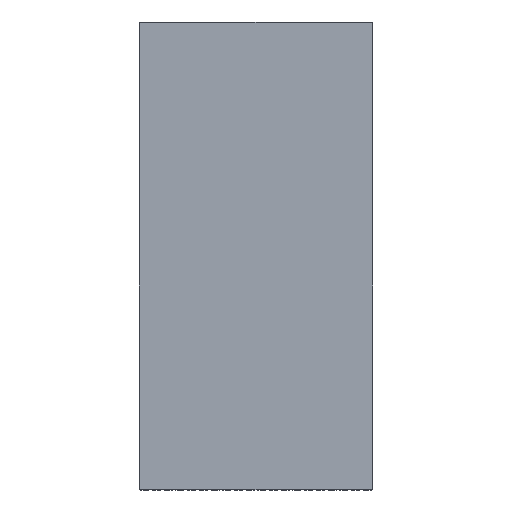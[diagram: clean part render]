
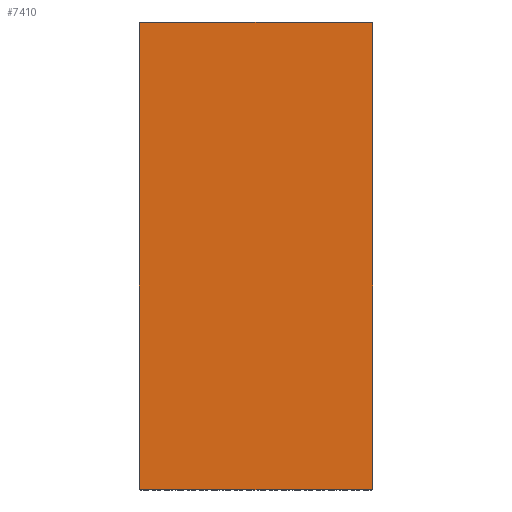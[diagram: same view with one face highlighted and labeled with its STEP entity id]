
A CAD part, top view. The second image highlights one B-rep face of the part: STEP entity #7410.
In plain terms, the highlighted planar face has unit normal (0, 0, 1).
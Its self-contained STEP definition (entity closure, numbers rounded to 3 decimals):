
#100=PLANE('',#8511);
#614=LINE('',#13143,#1114);
#618=LINE('',#13152,#1118);
#625=LINE('',#13190,#1125);
#626=LINE('',#13195,#1126);
#1114=VECTOR('',#10873,10.);
#1118=VECTOR('',#10883,10.);
#1125=VECTOR('',#10944,10.);
#1126=VECTOR('',#10953,10.);
#1930=FACE_OUTER_BOUND('',#2428,.T.);
#2428=EDGE_LOOP('',(#6825,#6826,#6827,#6828,#6829,#6830,#6831,#6832));
#3005=CIRCLE('',#8400,2.);
#3006=CIRCLE('',#8403,2.);
#3007=CIRCLE('',#8427,2.);
#3008=CIRCLE('',#8431,2.);
#3585=VERTEX_POINT('',#13140);
#3586=VERTEX_POINT('',#13142);
#3587=VERTEX_POINT('',#13146);
#3588=VERTEX_POINT('',#13150);
#3589=VERTEX_POINT('',#13154);
#3590=VERTEX_POINT('',#13182);
#3591=VERTEX_POINT('',#13184);
#3592=VERTEX_POINT('',#13188);
#4598=EDGE_CURVE('',#3586,#3585,#614,.T.);
#4601=EDGE_CURVE('',#3587,#3585,#3005,.T.);
#4603=EDGE_CURVE('',#3587,#3588,#618,.T.);
#4605=EDGE_CURVE('',#3589,#3588,#3006,.T.);
#4609=EDGE_CURVE('',#3590,#3591,#3007,.T.);
#4612=EDGE_CURVE('',#3590,#3592,#625,.T.);
#4613=EDGE_CURVE('',#3586,#3592,#3008,.T.);
#4614=EDGE_CURVE('',#3589,#3591,#626,.T.);
#6825=ORIENTED_EDGE('',*,*,#4609,.F.);
#6826=ORIENTED_EDGE('',*,*,#4612,.T.);
#6827=ORIENTED_EDGE('',*,*,#4613,.F.);
#6828=ORIENTED_EDGE('',*,*,#4598,.T.);
#6829=ORIENTED_EDGE('',*,*,#4601,.F.);
#6830=ORIENTED_EDGE('',*,*,#4603,.T.);
#6831=ORIENTED_EDGE('',*,*,#4605,.F.);
#6832=ORIENTED_EDGE('',*,*,#4614,.T.);
#7410=ADVANCED_FACE('',(#1930),#100,.T.);
#8400=AXIS2_PLACEMENT_3D('',#13148,#10878,#10879);
#8403=AXIS2_PLACEMENT_3D('',#13156,#10887,#10888);
#8427=AXIS2_PLACEMENT_3D('',#13185,#10938,#10939);
#8431=AXIS2_PLACEMENT_3D('',#13193,#10949,#10950);
#8511=AXIS2_PLACEMENT_3D('',#13332,#11168,#11169);
#10873=DIRECTION('',(1.,0.,0.));
#10878=DIRECTION('center_axis',(0.,0.,-1.));
#10879=DIRECTION('ref_axis',(0.707,-0.707,0.));
#10883=DIRECTION('',(0.,1.,0.));
#10887=DIRECTION('center_axis',(0.,0.,-1.));
#10888=DIRECTION('ref_axis',(0.707,0.707,0.));
#10938=DIRECTION('center_axis',(0.,0.,-1.));
#10939=DIRECTION('ref_axis',(-0.707,0.707,0.));
#10944=DIRECTION('',(0.,-1.,0.));
#10949=DIRECTION('center_axis',(0.,0.,-1.));
#10950=DIRECTION('ref_axis',(-0.707,-0.707,0.));
#10953=DIRECTION('',(-1.,0.,0.));
#11168=DIRECTION('center_axis',(0.,0.,1.));
#11169=DIRECTION('ref_axis',(1.,0.,0.));
#13140=CARTESIAN_POINT('',(248.,-500.,18.));
#13142=CARTESIAN_POINT('',(-248.,-500.,18.));
#13143=CARTESIAN_POINT('',(-250.,-500.,18.));
#13146=CARTESIAN_POINT('',(250.,-498.,18.));
#13148=CARTESIAN_POINT('Origin',(248.,-498.,18.));
#13150=CARTESIAN_POINT('',(250.,498.,18.));
#13152=CARTESIAN_POINT('',(250.,-500.,18.));
#13154=CARTESIAN_POINT('',(248.,500.,18.));
#13156=CARTESIAN_POINT('Origin',(248.,498.,18.));
#13182=CARTESIAN_POINT('',(-250.,498.,18.));
#13184=CARTESIAN_POINT('',(-248.,500.,18.));
#13185=CARTESIAN_POINT('Origin',(-248.,498.,18.));
#13188=CARTESIAN_POINT('',(-250.,-498.,18.));
#13190=CARTESIAN_POINT('',(-250.,500.,18.));
#13193=CARTESIAN_POINT('Origin',(-248.,-498.,18.));
#13195=CARTESIAN_POINT('',(250.,500.,18.));
#13332=CARTESIAN_POINT('Origin',(0.,0.,
18.));
